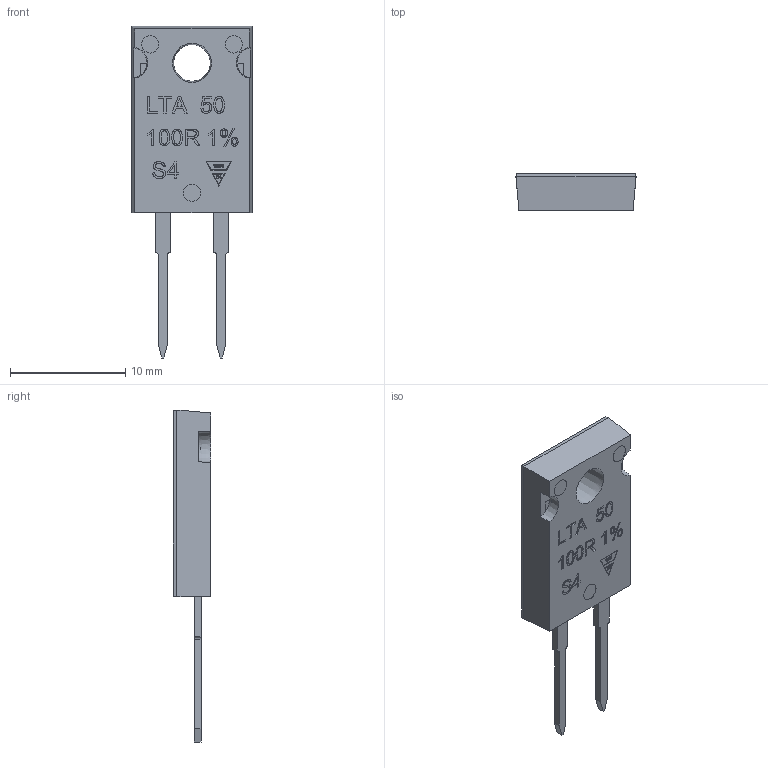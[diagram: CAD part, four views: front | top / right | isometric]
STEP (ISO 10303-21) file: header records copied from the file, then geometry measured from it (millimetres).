
FILE_DESCRIPTION(/* description */ ('Unknown'),/* implementation_level */ '2;1');
FILE_NAME(/* name */ '523395-25 LTA50',/* time_stamp */ '2024-11-18T11:43:33+01:00',/* author */ ('Unknown'),/* organization */ ('Unknown'),/* preprocessor_version */ 'ST-DEVELOPER v19.4',/* originating_system */ 'Solid Edge',/* authorisation */ 'Unknown');
FILE_SCHEMA (('AUTOMOTIVE_DESIGN {1 0 10303 214 3 1 1}'));
Length unit declared in the file: millimetre
Products named in the file (1): 523395-25 LTA50
Bounding box: 10.44 x 3.22 x 28.87 mm (x, y, z)
Volume: 510.7 mm3; surface area: 596.2 mm2
Topology: 1 solids, 1 shells, 243 faces, 591 edges, 393 vertices
Faces by surface type: plane 197, bspline 28, cylinder 15, cone 3
Full cylindrical faces by diameter (mm): 1.5 x3
Entity records: 9692 total; most frequent: CARTESIAN_POINT 2504, ORIENTED_EDGE 1144, DIRECTION 968, EDGE_CURVE 572, LINE 456, VECTOR 456, VERTEX_POINT 392, EDGE_LOOP 306
